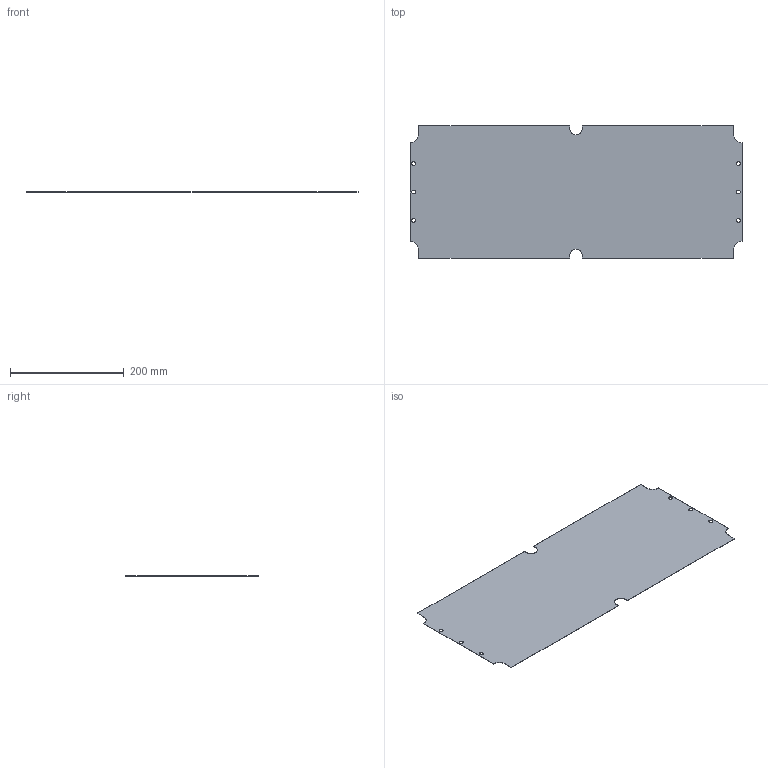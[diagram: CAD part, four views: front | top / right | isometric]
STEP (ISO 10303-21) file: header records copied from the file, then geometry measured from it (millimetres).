
FILE_DESCRIPTION((''),'2;1');
FILE_NAME('c:\temp\263PL.stp','2006-07-18T13:50:59',('kbond'),(''),'Autodesk Inventor 11','Autodesk Inventor 11','');
FILE_SCHEMA(('AUTOMOTIVE_DESIGN { 1 0 10303 214 1 1 1 1 }'));
Length unit declared in the file: millimetre
Products named in the file (1): 263PL
Bounding box: 585 x 234 x 0.5 mm (x, y, z)
Volume: 67248.7 mm3; surface area: 269888.8 mm2
Topology: 1 solids, 1 shells, 32 faces, 96 edges, 66 vertices
Faces by surface type: plane 20, bspline 6, cylinder 6
Entity records: 1133 total; most frequent: CARTESIAN_POINT 279, ORIENTED_EDGE 168, DIRECTION 162, EDGE_CURVE 84, VERTEX_POINT 60, VECTOR 60, LINE 60, AXIS2_PLACEMENT_3D 51
